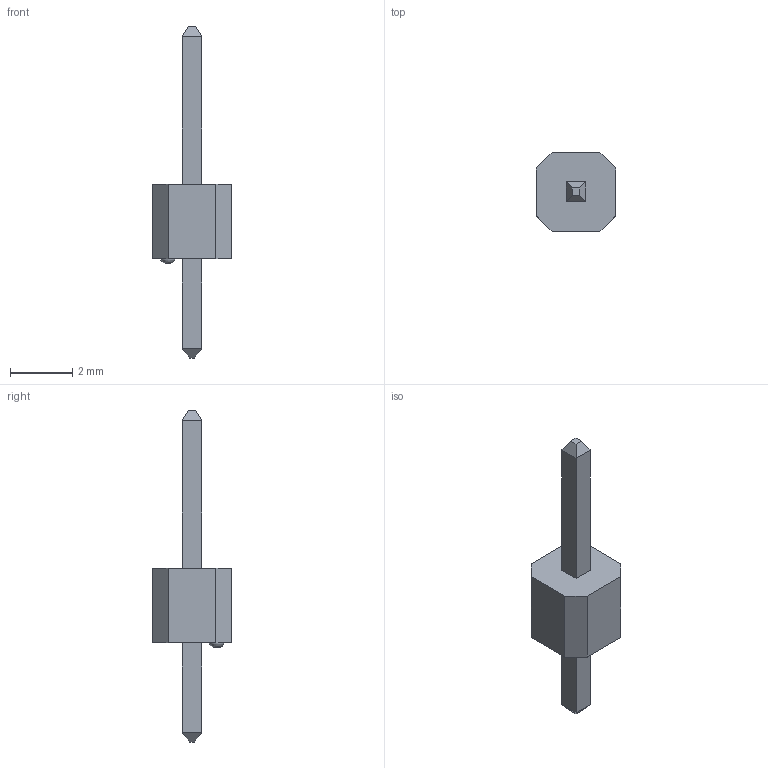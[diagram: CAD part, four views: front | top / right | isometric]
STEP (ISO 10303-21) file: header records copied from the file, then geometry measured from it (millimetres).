
FILE_DESCRIPTION(/* description */ (''),/* implementation_level */ '2;1');
FILE_NAME(/* name */ 'H:\KH_3D_lib\sullins\PBC01SAAN\PBC01SAAN.stp',/* time_stamp */ '2020-05-24T15:53:27+02:00',/* author */ ('Khaled'),/* organization */ (''),/* preprocessor_version */ 'ST-DEVELOPER v17.2',/* originating_system */ 'Autodesk Inventor 2019',/* authorisation */ '');
FILE_SCHEMA (('AUTOMOTIVE_DESIGN { 1 0 10303 214 3 1 1 }'));
Length unit declared in the file: millimetre
Products named in the file (4): PBC01SAAN; 1; 2; 3
Assembly tree (3 placements, depth 2):
  PBC01SAAN
    1
    2
    3
Bounding box: 2.54 x 2.54 x 10.67 mm (x, y, z)
Volume: 17.5 mm3; surface area: 55.3 mm2
Topology: 3 solids, 3 shells, 32 faces, 69 edges, 44 vertices
Faces by surface type: plane 31, bspline 1
Entity records: 1051 total; most frequent: CARTESIAN_POINT 178, DIRECTION 150, ORIENTED_EDGE 138, EDGE_CURVE 69, LINE 64, VECTOR 64, VERTEX_POINT 44, AXIS2_PLACEMENT_3D 43
